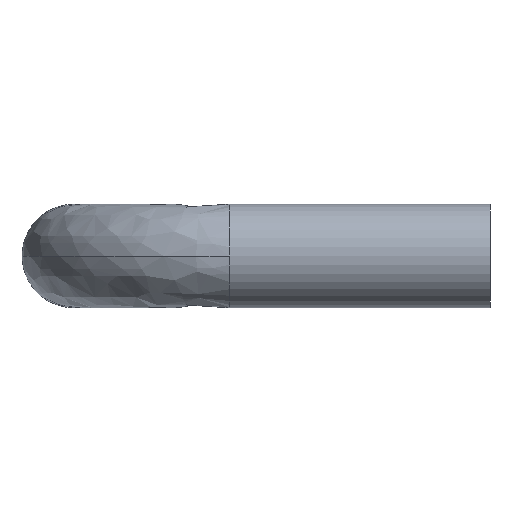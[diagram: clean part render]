
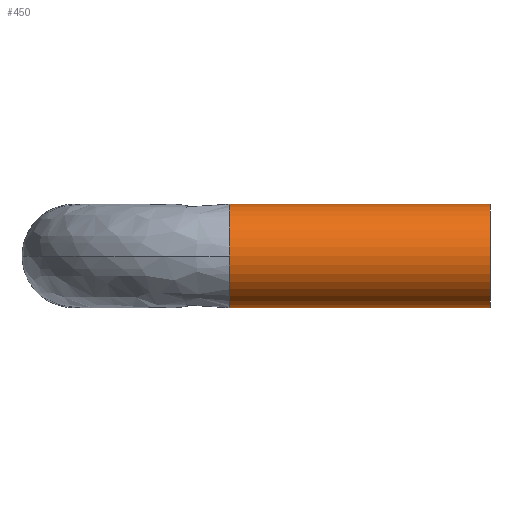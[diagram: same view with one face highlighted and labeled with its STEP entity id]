
A CAD part, left-side view. The second image highlights one B-rep face of the part: STEP entity #450.
In plain terms, the highlighted cylindrical face has radius 9.525 mm (diameter 19.05 mm), a partial arc.
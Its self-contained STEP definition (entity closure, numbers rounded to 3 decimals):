
#8 = LINE ( 'NONE', #86, #32 ) ;
#15 = VERTEX_POINT ( 'NONE', #318 ) ;
#24 = AXIS2_PLACEMENT_3D ( 'NONE', #344, #319, #475 ) ;
#25 = CIRCLE ( 'NONE', #228, 9.525 ) ;
#29 = CIRCLE ( 'NONE', #24, 9.525 ) ;
#32 = VECTOR ( 'NONE', #52, 1000. ) ;
#52 = DIRECTION ( 'NONE',  ( 0., -1., 0. ) ) ;
#66 = EDGE_CURVE ( 'NONE', #264, #464, #294, .T. ) ;
#72 = DIRECTION ( 'NONE',  ( 0., 0., -1. ) ) ;
#86 = CARTESIAN_POINT ( 'NONE',  ( 0., 48.01, -9.525 ) ) ;
#104 = EDGE_LOOP ( 'NONE', ( #288, #432, #171, #160, #259 ) ) ;
#114 = AXIS2_PLACEMENT_3D ( 'NONE', #177, #310, #298 ) ;
#117 = DIRECTION ( 'NONE',  ( 0., 0., -1. ) ) ;
#159 = EDGE_CURVE ( 'NONE', #243, #264, #8, .T. ) ;
#160 = ORIENTED_EDGE ( 'NONE', *, *, #159, .T. ) ;
#167 = EDGE_CURVE ( 'NONE', #15, #279, #25, .T. ) ;
#171 = ORIENTED_EDGE ( 'NONE', *, *, #479, .T. ) ;
#177 = CARTESIAN_POINT ( 'NONE',  ( 0., 48.01, 0. ) ) ;
#228 = AXIS2_PLACEMENT_3D ( 'NONE', #429, #504, #117 ) ;
#241 = FACE_OUTER_BOUND ( 'NONE', #104, .T. ) ;
#243 = VERTEX_POINT ( 'NONE', #263 ) ;
#259 = ORIENTED_EDGE ( 'NONE', *, *, #66, .T. ) ;
#263 = CARTESIAN_POINT ( 'NONE',  ( 0., 48.01, -9.525 ) ) ;
#264 = VERTEX_POINT ( 'NONE', #456 ) ;
#279 = VERTEX_POINT ( 'NONE', #351 ) ;
#287 = EDGE_CURVE ( 'NONE', #15, #464, #304, .T. ) ;
#288 = ORIENTED_EDGE ( 'NONE', *, *, #287, .F. ) ;
#294 = CIRCLE ( 'NONE', #370, 9.525 ) ;
#298 = DIRECTION ( 'NONE',  ( 0., 0., -1. ) ) ;
#300 = CYLINDRICAL_SURFACE ( 'NONE', #114, 9.525 ) ;
#304 = LINE ( 'NONE', #342, #503 ) ;
#310 = DIRECTION ( 'NONE',  ( 0., -1., 0. ) ) ;
#318 = CARTESIAN_POINT ( 'NONE',  ( 0., 48.01, 9.525 ) ) ;
#319 = DIRECTION ( 'NONE',  ( 0., -1., 0. ) ) ;
#325 = CARTESIAN_POINT ( 'NONE',  ( 0., 0., 9.525 ) ) ;
#342 = CARTESIAN_POINT ( 'NONE',  ( 0., 48.01, 9.525 ) ) ;
#344 = CARTESIAN_POINT ( 'NONE',  ( 0., 48.01, 0. ) ) ;
#349 = DIRECTION ( 'NONE',  ( 0., -1., 0. ) ) ;
#351 = CARTESIAN_POINT ( 'NONE',  ( -9.525, 48.01, 0. ) ) ;
#370 = AXIS2_PLACEMENT_3D ( 'NONE', #393, #392, #72 ) ;
#392 = DIRECTION ( 'NONE',  ( 0., 1., 0. ) ) ;
#393 = CARTESIAN_POINT ( 'NONE',  ( 0., 0., 0. ) ) ;
#429 = CARTESIAN_POINT ( 'NONE',  ( 0., 48.01, 0. ) ) ;
#432 = ORIENTED_EDGE ( 'NONE', *, *, #167, .T. ) ;
#450 = ADVANCED_FACE ( 'NONE', ( #241 ), #300, .T. ) ;
#456 = CARTESIAN_POINT ( 'NONE',  ( 0., 0., -9.525 ) ) ;
#464 = VERTEX_POINT ( 'NONE', #325 ) ;
#475 = DIRECTION ( 'NONE',  ( 0., 0., -1. ) ) ;
#479 = EDGE_CURVE ( 'NONE', #279, #243, #29, .T. ) ;
#503 = VECTOR ( 'NONE', #349, 1000. ) ;
#504 = DIRECTION ( 'NONE',  ( 0., -1., 0. ) ) ;
